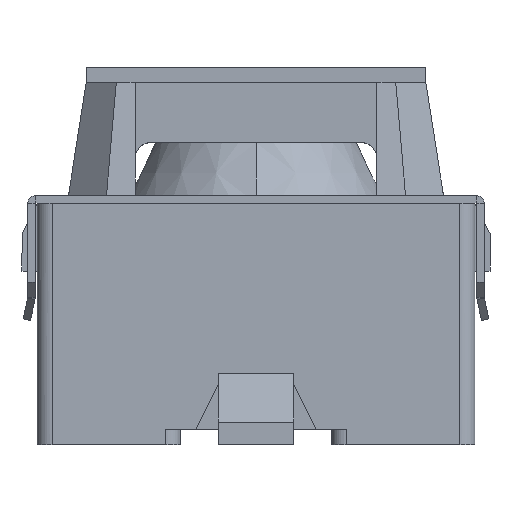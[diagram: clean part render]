
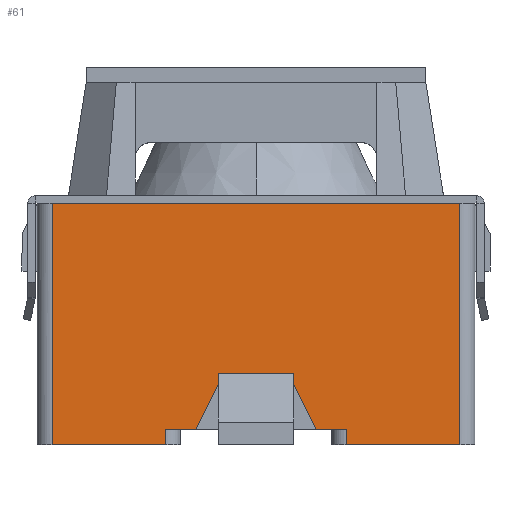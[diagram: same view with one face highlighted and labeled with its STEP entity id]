
A CAD part, left-side view. The second image highlights one B-rep face of the part: STEP entity #61.
In plain terms, the highlighted planar face has unit normal (-1, 0, 0).
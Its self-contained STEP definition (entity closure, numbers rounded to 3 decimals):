
#3 = VERTEX_POINT ( 'NONE', #2003 ) ;
#21 = EDGE_CURVE ( 'NONE', #540, #532, #2035, .T. ) ;
#61 = ADVANCED_FACE ( 'NONE', ( #2237 ), #2191, .F. ) ;
#76 = EDGE_CURVE ( 'NONE', #80, #480, #2306, .T. ) ;
#80 = VERTEX_POINT ( 'NONE', #2282 ) ;
#82 = EDGE_CURVE ( 'NONE', #396, #139, #2223, .T. ) ;
#94 = EDGE_CURVE ( 'NONE', #164, #114, #2333, .T. ) ;
#114 = VERTEX_POINT ( 'NONE', #2443 ) ;
#139 = VERTEX_POINT ( 'NONE', #2380 ) ;
#155 = VERTEX_POINT ( 'NONE', #2425 ) ;
#158 = EDGE_CURVE ( 'NONE', #155, #164, #2419, .T. ) ;
#164 = VERTEX_POINT ( 'NONE', #2512 ) ;
#396 = VERTEX_POINT ( 'NONE', #3371 ) ;
#397 = VERTEX_POINT ( 'NONE', #3246 ) ;
#399 = VERTEX_POINT ( 'NONE', #3211 ) ;
#480 = VERTEX_POINT ( 'NONE', #3575 ) ;
#481 = EDGE_CURVE ( 'NONE', #399, #397, #3565, .T. ) ;
#486 = EDGE_CURVE ( 'NONE', #396, #397, #3563, .T. ) ;
#490 = EDGE_CURVE ( 'NONE', #399, #480, #3396, .T. ) ;
#505 = EDGE_LOOP ( 'NONE', ( #623, #827, #665, #828, #696, #662, #699, #655, #691, #663, #656, #669, #671, #666 ) ) ;
#532 = VERTEX_POINT ( 'NONE', #3664 ) ;
#533 = EDGE_CURVE ( 'NONE', #3, #540, #3658, .T. ) ;
#540 = VERTEX_POINT ( 'NONE', #3755 ) ;
#623 = ORIENTED_EDGE ( 'NONE', *, *, #490, .F. ) ;
#655 = ORIENTED_EDGE ( 'NONE', *, *, #740, .F. ) ;
#656 = ORIENTED_EDGE ( 'NONE', *, *, #533, .T. ) ;
#662 = ORIENTED_EDGE ( 'NONE', *, *, #94, .F. ) ;
#663 = ORIENTED_EDGE ( 'NONE', *, *, #715, .T. ) ;
#665 = ORIENTED_EDGE ( 'NONE', *, *, #486, .F. ) ;
#666 = ORIENTED_EDGE ( 'NONE', *, *, #76, .T. ) ;
#669 = ORIENTED_EDGE ( 'NONE', *, *, #21, .T. ) ;
#671 = ORIENTED_EDGE ( 'NONE', *, *, #766, .T. ) ;
#691 = ORIENTED_EDGE ( 'NONE', *, *, #695, .F. ) ;
#695 = EDGE_CURVE ( 'NONE', #704, #733, #4021, .T. ) ;
#696 = ORIENTED_EDGE ( 'NONE', *, *, #786, .T. ) ;
#699 = ORIENTED_EDGE ( 'NONE', *, *, #158, .F. ) ;
#704 = VERTEX_POINT ( 'NONE', #3975 ) ;
#715 = EDGE_CURVE ( 'NONE', #704, #3, #4080, .T. ) ;
#733 = VERTEX_POINT ( 'NONE', #3840 ) ;
#740 = EDGE_CURVE ( 'NONE', #733, #155, #4192, .T. ) ;
#766 = EDGE_CURVE ( 'NONE', #532, #80, #4129, .T. ) ;
#786 = EDGE_CURVE ( 'NONE', #139, #114, #4253, .T. ) ;
#827 = ORIENTED_EDGE ( 'NONE', *, *, #481, .T. ) ;
#828 = ORIENTED_EDGE ( 'NONE', *, *, #82, .T. ) ;
#2003 = CARTESIAN_POINT ( 'NONE',  ( -3.3, -0.2, -2.7 ) ) ;
#2034 = CARTESIAN_POINT ( 'NONE',  ( -3.3, -0.2, -1.2 ) ) ;
#2035 = LINE ( 'NONE', #2034, #2086 ) ;
#2085 = DIRECTION ( 'NONE',  ( 0., 1., 0. ) ) ;
#2086 = VECTOR ( 'NONE', #2085, 1000. ) ;
#2190 = AXIS2_PLACEMENT_3D ( 'NONE', #2252, #2251, #2250 ) ;
#2191 = PLANE ( 'NONE',  #2190 ) ;
#2223 = LINE ( 'NONE', #2264, #2263 ) ;
#2237 = FACE_OUTER_BOUND ( 'NONE', #505, .T. ) ;
#2250 = DIRECTION ( 'NONE',  ( 0., 0., -1. ) ) ;
#2251 = DIRECTION ( 'NONE',  ( 1., 0., 0. ) ) ;
#2252 = CARTESIAN_POINT ( 'NONE',  ( -3.3, 3., -2.7 ) ) ;
#2262 = DIRECTION ( 'NONE',  ( 0., -0.894, 0.447 ) ) ;
#2263 = VECTOR ( 'NONE', #2262, 1000. ) ;
#2264 = CARTESIAN_POINT ( 'NONE',  ( -3.3, 0.6, 0.5 ) ) ;
#2280 = DIRECTION ( 'NONE',  ( 0., 0.894, 0.447 ) ) ;
#2281 = VECTOR ( 'NONE', #2280, 1000. ) ;
#2282 = CARTESIAN_POINT ( 'NONE',  ( -3.3, 0., -0.8 ) ) ;
#2305 = CARTESIAN_POINT ( 'NONE',  ( -3.3, 0.6, -0.5 ) ) ;
#2306 = LINE ( 'NONE', #2305, #2281 ) ;
#2330 = DIRECTION ( 'NONE',  ( 0., 1., 0. ) ) ;
#2331 = VECTOR ( 'NONE', #2330, 1000. ) ;
#2332 = CARTESIAN_POINT ( 'NONE',  ( -3.3, -0.2, 1.2 ) ) ;
#2333 = LINE ( 'NONE', #2332, #2331 ) ;
#2380 = CARTESIAN_POINT ( 'NONE',  ( -3.3, 0., 0.8 ) ) ;
#2412 = DIRECTION ( 'NONE',  ( 0., 0., -1. ) ) ;
#2413 = VECTOR ( 'NONE', #2412, 1000. ) ;
#2418 = CARTESIAN_POINT ( 'NONE',  ( -3.3, -0.2, 1.2 ) ) ;
#2419 = LINE ( 'NONE', #2418, #2413 ) ;
#2425 = CARTESIAN_POINT ( 'NONE',  ( -3.3, -0.2, 2.7 ) ) ;
#2443 = CARTESIAN_POINT ( 'NONE',  ( -3.3, 0., 1.2 ) ) ;
#2512 = CARTESIAN_POINT ( 'NONE',  ( -3.3, -0.2, 1.2 ) ) ;
#3211 = CARTESIAN_POINT ( 'NONE',  ( -3.3, 0.748, -0.5 ) ) ;
#3246 = CARTESIAN_POINT ( 'NONE',  ( -3.3, 0.748, 0.5 ) ) ;
#3371 = CARTESIAN_POINT ( 'NONE',  ( -3.3, 0.6, 0.5 ) ) ;
#3393 = DIRECTION ( 'NONE',  ( 0., -1., 0. ) ) ;
#3394 = VECTOR ( 'NONE', #3393, 1000. ) ;
#3395 = CARTESIAN_POINT ( 'NONE',  ( -3.3, 3., -0.5 ) ) ;
#3396 = LINE ( 'NONE', #3395, #3394 ) ;
#3402 = VECTOR ( 'NONE', #3566, 1000. ) ;
#3555 = CARTESIAN_POINT ( 'NONE',  ( -3.3, 3., 0.5 ) ) ;
#3559 = DIRECTION ( 'NONE',  ( 0., 0., 1. ) ) ;
#3560 = VECTOR ( 'NONE', #3559, 1000. ) ;
#3561 = CARTESIAN_POINT ( 'NONE',  ( -3.3, 0.748, -2.7 ) ) ;
#3563 = LINE ( 'NONE', #3555, #3402 ) ;
#3565 = LINE ( 'NONE', #3561, #3560 ) ;
#3566 = DIRECTION ( 'NONE',  ( 0., 1., 0. ) ) ;
#3575 = CARTESIAN_POINT ( 'NONE',  ( -3.3, 0.6, -0.5 ) ) ;
#3652 = DIRECTION ( 'NONE',  ( 0., 0., 1. ) ) ;
#3653 = VECTOR ( 'NONE', #3652, 1000. ) ;
#3654 = CARTESIAN_POINT ( 'NONE',  ( -3.3, -0.2, -1.2 ) ) ;
#3658 = LINE ( 'NONE', #3654, #3653 ) ;
#3664 = CARTESIAN_POINT ( 'NONE',  ( -3.3, 0., -1.2 ) ) ;
#3755 = CARTESIAN_POINT ( 'NONE',  ( -3.3, -0.2, -1.2 ) ) ;
#3840 = CARTESIAN_POINT ( 'NONE',  ( -3.3, 3., 2.7 ) ) ;
#3971 = DIRECTION ( 'NONE',  ( 0., 0., 1. ) ) ;
#3972 = VECTOR ( 'NONE', #3971, 1000. ) ;
#3975 = CARTESIAN_POINT ( 'NONE',  ( -3.3, 3., -2.7 ) ) ;
#3995 = DIRECTION ( 'NONE',  ( 0., -1., 0. ) ) ;
#3996 = VECTOR ( 'NONE', #3995, 1000. ) ;
#4020 = CARTESIAN_POINT ( 'NONE',  ( -3.3, 3., -2.7 ) ) ;
#4021 = LINE ( 'NONE', #4020, #3972 ) ;
#4079 = CARTESIAN_POINT ( 'NONE',  ( -3.3, 3., -2.7 ) ) ;
#4080 = LINE ( 'NONE', #4079, #3996 ) ;
#4127 = DIRECTION ( 'NONE',  ( 0., 0., 1. ) ) ;
#4128 = VECTOR ( 'NONE', #4127, 1000. ) ;
#4129 = LINE ( 'NONE', #4213, #4128 ) ;
#4131 = DIRECTION ( 'NONE',  ( 0., -1., 0. ) ) ;
#4132 = CARTESIAN_POINT ( 'NONE',  ( -3.3, 3., 2.7 ) ) ;
#4192 = LINE ( 'NONE', #4132, #4258 ) ;
#4211 = DIRECTION ( 'NONE',  ( 0., 0., 1. ) ) ;
#4213 = CARTESIAN_POINT ( 'NONE',  ( -3.3, 0., -2.7 ) ) ;
#4245 = VECTOR ( 'NONE', #4211, 1000. ) ;
#4246 = CARTESIAN_POINT ( 'NONE',  ( -3.3, 0., -2.7 ) ) ;
#4253 = LINE ( 'NONE', #4246, #4245 ) ;
#4258 = VECTOR ( 'NONE', #4131, 1000. ) ;
